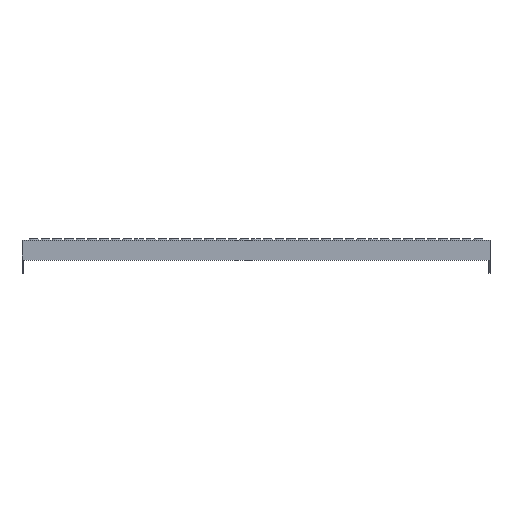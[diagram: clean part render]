
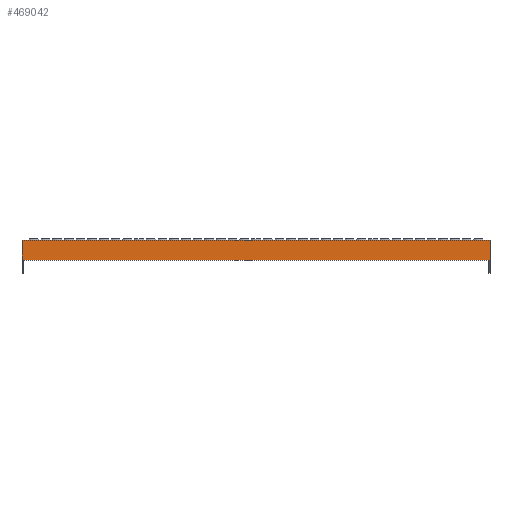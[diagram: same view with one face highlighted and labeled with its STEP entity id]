
A CAD part, front view. The second image highlights one B-rep face of the part: STEP entity #469042.
In plain terms, the highlighted planar face has unit normal (0, -1, 0).
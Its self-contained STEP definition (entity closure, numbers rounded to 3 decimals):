
#469042 = ADVANCED_FACE('',(#469043),#469057,.T.);
#469043 = FACE_BOUND('',#469044,.T.);
#469044 = EDGE_LOOP('',(#469045,#469068,#469084,#469100));
#469045 = ORIENTED_EDGE('',*,*,#469046,.T.);
#469046 = EDGE_CURVE('',#469047,#469049,#469051,.T.);
#469047 = VERTEX_POINT('',#469048);
#469048 = CARTESIAN_POINT('',(7000.,8720.,
    0.));
#469049 = VERTEX_POINT('',#469050);
#469050 = CARTESIAN_POINT('',(6000.,8720.,
    0.));
#469051 = SURFACE_CURVE('',#469052,(#469056),.PCURVE_S1.);
#469052 = LINE('',#469053,#469054);
#469053 = CARTESIAN_POINT('',(7000.,8720.,
    0.));
#469054 = VECTOR('',#469055,1.);
#469055 = DIRECTION('',(-1.,0.,0.));
#469056 = PCURVE('',#469057,#469062);
#469057 = PLANE('',#469058);
#469058 = AXIS2_PLACEMENT_3D('',#469059,#469060,#469061);
#469059 = CARTESIAN_POINT('',(6500.,8720.,-21.25)
  );
#469060 = DIRECTION('',(0.,-1.,0.));
#469061 = DIRECTION('',(0.,0.,-1.));
#469062 = DEFINITIONAL_REPRESENTATION('',(#469063),#469067);
#469063 = LINE('',#469064,#469065);
#469064 = CARTESIAN_POINT('',(-21.25,500.));
#469065 = VECTOR('',#469066,1.);
#469066 = DIRECTION('',(0.,-1.));
#469067 = ( GEOMETRIC_REPRESENTATION_CONTEXT(2) 
PARAMETRIC_REPRESENTATION_CONTEXT() REPRESENTATION_CONTEXT('2D SPACE',''
  ) );
#469068 = ORIENTED_EDGE('',*,*,#469069,.T.);
#469069 = EDGE_CURVE('',#469049,#469070,#469072,.T.);
#469070 = VERTEX_POINT('',#469071);
#469071 = CARTESIAN_POINT('',(6000.,8720.,-42.5)
  );
#469072 = SURFACE_CURVE('',#469073,(#469077),.PCURVE_S1.);
#469073 = LINE('',#469074,#469075);
#469074 = CARTESIAN_POINT('',(6000.,8720.,
    0.));
#469075 = VECTOR('',#469076,1.);
#469076 = DIRECTION('',(0.,0.,-1.));
#469077 = PCURVE('',#469057,#469078);
#469078 = DEFINITIONAL_REPRESENTATION('',(#469079),#469083);
#469079 = LINE('',#469080,#469081);
#469080 = CARTESIAN_POINT('',(-21.25,-500.));
#469081 = VECTOR('',#469082,1.);
#469082 = DIRECTION('',(1.,0.));
#469083 = ( GEOMETRIC_REPRESENTATION_CONTEXT(2) 
PARAMETRIC_REPRESENTATION_CONTEXT() REPRESENTATION_CONTEXT('2D SPACE',''
  ) );
#469084 = ORIENTED_EDGE('',*,*,#469085,.T.);
#469085 = EDGE_CURVE('',#469070,#469086,#469088,.T.);
#469086 = VERTEX_POINT('',#469087);
#469087 = CARTESIAN_POINT('',(7000.,8720.,-42.5)
  );
#469088 = SURFACE_CURVE('',#469089,(#469093),.PCURVE_S1.);
#469089 = LINE('',#469090,#469091);
#469090 = CARTESIAN_POINT('',(6000.,8720.,-42.5)
  );
#469091 = VECTOR('',#469092,1.);
#469092 = DIRECTION('',(1.,0.,0.));
#469093 = PCURVE('',#469057,#469094);
#469094 = DEFINITIONAL_REPRESENTATION('',(#469095),#469099);
#469095 = LINE('',#469096,#469097);
#469096 = CARTESIAN_POINT('',(21.25,-500.));
#469097 = VECTOR('',#469098,1.);
#469098 = DIRECTION('',(0.,1.));
#469099 = ( GEOMETRIC_REPRESENTATION_CONTEXT(2) 
PARAMETRIC_REPRESENTATION_CONTEXT() REPRESENTATION_CONTEXT('2D SPACE',''
  ) );
#469100 = ORIENTED_EDGE('',*,*,#469101,.T.);
#469101 = EDGE_CURVE('',#469086,#469047,#469102,.T.);
#469102 = SURFACE_CURVE('',#469103,(#469107),.PCURVE_S1.);
#469103 = LINE('',#469104,#469105);
#469104 = CARTESIAN_POINT('',(7000.,8720.,-42.5)
  );
#469105 = VECTOR('',#469106,1.);
#469106 = DIRECTION('',(0.,0.,1.));
#469107 = PCURVE('',#469057,#469108);
#469108 = DEFINITIONAL_REPRESENTATION('',(#469109),#469113);
#469109 = LINE('',#469110,#469111);
#469110 = CARTESIAN_POINT('',(21.25,500.));
#469111 = VECTOR('',#469112,1.);
#469112 = DIRECTION('',(-1.,0.));
#469113 = ( GEOMETRIC_REPRESENTATION_CONTEXT(2) 
PARAMETRIC_REPRESENTATION_CONTEXT() REPRESENTATION_CONTEXT('2D SPACE',''
  ) );
